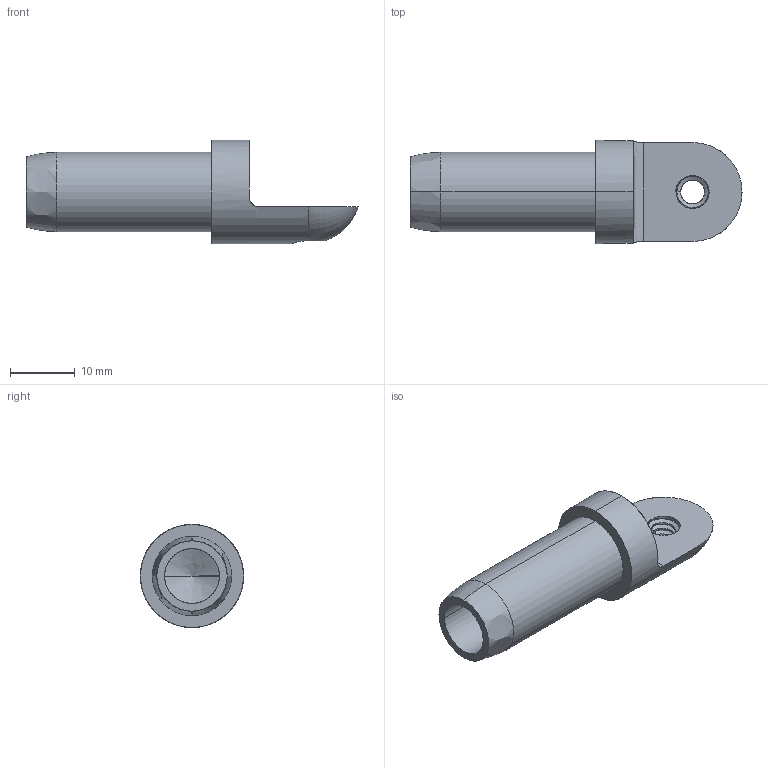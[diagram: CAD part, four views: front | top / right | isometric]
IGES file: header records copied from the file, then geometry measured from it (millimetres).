
Start section: SolidWorks IGES file using analytic representation for surfaces
Global section: file name: \\SERVER3\Design\_New Design Drive Folder List\_Design Vault\AAI\Modular Round Tube Connectors\Solidworks Models\Modular Connectors\0.500 In. Modular Connectors\Basic Models\0.500 In. Single Sided Clevis Threaded Connector.IGS; native system: SolidWorks 2013; preprocessor: SolidWorks 2013; author: tbraun; date: 140807.145002; units: inch
Bounding box: 51.1 x 15.88 x 15.88 mm (x, y, z)
Surface area: 3277.2 mm2 (no closed solid volume)
Topology: 0 solids, 0 shells, 29 faces, 400 edges, 398 vertices
Faces by surface type: bspline 16, revolution 13
